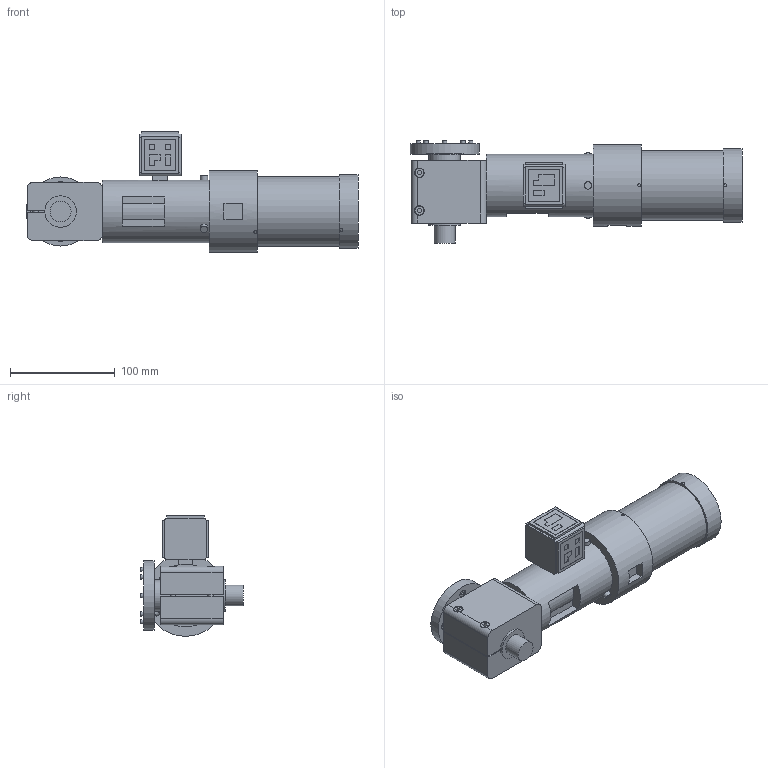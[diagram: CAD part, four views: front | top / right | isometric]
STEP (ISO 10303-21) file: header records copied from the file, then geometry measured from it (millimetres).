
FILE_DESCRIPTION(('Open CASCADE Model'),'2;1');
FILE_NAME('Open CASCADE Shape Model','2026-10-17T21:01:28',('Author'),( 'Open CASCADE'),'Open CASCADE STEP processor 7.9','Open CASCADE 7.9' ,'Unknown');
FILE_SCHEMA(('AUTOMOTIVE_DESIGN { 1 0 10303 214 1 1 1 1 }'));
Length unit declared in the file: millimetre
Products named in the file (34): ARM_L5_HEAD; head_hub_shaft; J5_flange_screws_M4; head_clamp_block; clamp_screws_M5; boom_shell_printed; shell_to_clamp_screws_M5; spindle_motor_maxon_EC-i40; spindle_motor_shaft; motor_screws_M3; bellows_coupling; rear_bearing_block_printed; spigot_radial_screws_M4; rear_bearing_6000_0_outer; rear_bearing_6000_0_inner; rear_bearing_6000_0_seal; rear_bearing_6000_1_outer; rear_bearing_6000_1_inner; rear_bearing_6000_1_seal; bearing_spacer_sleeve; guard_tube_polycarbonate; nose_block_printed; nose_bearing_608_outer; nose_bearing_608_inner; nose_bearing_608_seal; guard_set_screws_M3_rear; guard_set_screws_M3_nose; tool_marker_block_printed; tool_marker_20_plate; tool_marker_20_ink; tool_marker_21_plate; tool_marker_21_ink; tool_marker_22_plate; tool_marker_22_ink
Assembly tree (33 placements, depth 2):
  ARM_L5_HEAD
    head_hub_shaft
    J5_flange_screws_M4
    head_clamp_block
    clamp_screws_M5
    boom_shell_printed
    shell_to_clamp_screws_M5
    spindle_motor_maxon_EC-i40
    spindle_motor_shaft
    motor_screws_M3
    bellows_coupling
    rear_bearing_block_printed
    spigot_radial_screws_M4
    rear_bearing_6000_0_outer
    rear_bearing_6000_0_inner
    rear_bearing_6000_0_seal
    rear_bearing_6000_1_outer
    rear_bearing_6000_1_inner
    rear_bearing_6000_1_seal
    bearing_spacer_sleeve
    guard_tube_polycarbonate
    nose_block_printed
    nose_bearing_608_outer
    nose_bearing_608_inner
    nose_bearing_608_seal
    guard_set_screws_M3_rear
    guard_set_screws_M3_nose
    tool_marker_block_printed
    tool_marker_20_plate
    tool_marker_20_ink
    tool_marker_21_plate
    tool_marker_21_ink
    tool_marker_22_plate
    tool_marker_22_ink
Bounding box: 317 x 97.5 x 115.25 mm (x, y, z)
Volume: 872454.9 mm3; surface area: 223923.8 mm2
Topology: 53 solids, 53 shells, 549 faces, 1110 edges, 738 vertices
Faces by surface type: plane 397, cylinder 152
Full cylindrical faces by diameter (mm): 2.5 x4, 3 x10, 3.3 x6, 3.4 x4, 4 x11, 4.2 x6, 4.5 x8, 5 x6, 5.5 x10, 6 x2, 7 x11, 7.6 x8, 8 x1, 8.5 x6, 9 x1, 9.1 x2, 10 x5, 10.4 x1, 12 x1, 13.04 x2, 15.76 x4, 16.96 x2, 18 x1, 20 x2, 20.24 x4, 22 x2, 22.05 x1, 23 x1, 25 x2, 26 x2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
Entity records: 31734 total; most frequent: CARTESIAN_POINT 6795, DIRECTION 4688, LINE 2562, VECTOR 2562, ORIENTED_EDGE 2224, PCURVE 2220, DEFINITIONAL_REPRESENTATION 2220, EDGE_CURVE 1110
